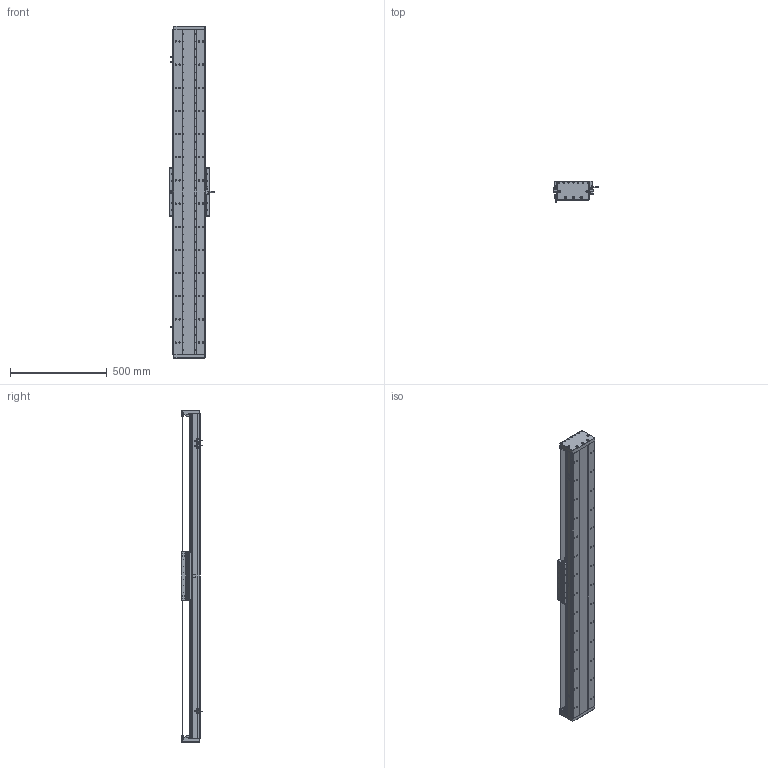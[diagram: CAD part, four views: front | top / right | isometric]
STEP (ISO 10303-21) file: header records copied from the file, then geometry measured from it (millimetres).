
FILE_DESCRIPTION (( 'STEP AP203' ), '1' );
FILE_NAME ('DA-C165-C3-T1380-C010-0.2 直线电机.STEP', '2023-06-13T08:45:45', ( '微软用户' ), ( '微软中国' ), 'SwSTEP 2.0', 'SolidWorks 2019', '' );
FILE_SCHEMA (( 'CONFIG_CONTROL_DESIGN' ));
Length unit declared in the file: millimetre
Products named in the file (18): 复件 XD-U-02L 磁栅尺^DA-C165-C3-T-C010-0.2-N 直线电机_T; 葩璃 CKM03-W075-C1C2-TP-3.0^DA-C165-C3-T-C010-0.2-N 眻盄萇儂; 复件 DA95-HXJ-00 缓冲橡胶^DA-C165-C3-T-C010-0.2-N 直线电机; 复件 六角薄螺母 M3^DA-C165-C3-T-C010-0.2-N 直线电机_GB_FASTENER_NUT_STNAB M3-C; 葩璃 PM-T45^DA-C165-C3-T-C010-0.2-N 眻盄萇儂; 复件 DA165-GD-DG-H-00 端盖^复件 CU165钢带组件_DA-C165-C3-T-C010-0.2-N 直线电机; 复件 CU165 底座^IU-CU165-L 底座导轨_L1680; 葩璃 CKM01-W075-TRL^DA-C165-C3-T-C010-0.2-N 眻盄萇儂; 复件 DA165-GD-1860-002-00 钢带盖板^复件 CU165钢带组件_DA-C165-C3-T-C010-0.2-N 直线电机; IU-CU165-L 菁釱絳寢; 复件 DA165-GYP-00 光电感应片^DA-C165-C3-T-C010-0.2-N 直线电机; 复件 DA165-GDYK-00 钢带压块^复件 CU165钢带组件_DA-C165-C3-T-C010-0.2-N 直线电机; 复件 DMA-010-0.2 读数头^DA-C165-C3-T-C010-0.2-N 直线电机; 珨极趙賑雄怢啣C3-wf; DA-C165-C3-T1380-C010-0.2 眻盄萇儂; 复件 CU165钢带组件^DA-C165-C3-T-C010-0.2-N 直线电机; 葩璃 DA95-GT-T-00^IU-CU165-L 菁釱絳寢_T; 复件 DA165-GDLK-00 钢带拉块^复件 CU165钢带组件_DA-C165-C3-T-C010-0.2-N 直线电机
Assembly tree (35 placements, depth 3):
  DA-C165-C3-T1380-C010-0.2 眻盄萇儂
    IU-CU165-L 菁釱絳寢
      复件 CU165 底座^IU-CU165-L 底座导轨_L1680
      葩璃 DA95-GT-T-00^IU-CU165-L 菁釱絳寢_T  x4
    复件 XD-U-02L 磁栅尺^DA-C165-C3-T-C010-0.2-N 直线电机_T
    葩璃 PM-T45^DA-C165-C3-T-C010-0.2-N 眻盄萇儂  x3
    葩璃 CKM01-W075-TRL^DA-C165-C3-T-C010-0.2-N 眻盄萇儂
    复件 CU165钢带组件^DA-C165-C3-T-C010-0.2-N 直线电机
      复件 DA165-GD-DG-H-00 端盖^复件 CU165钢带组件_DA-C165-C3-T-C010-0.2-N 直线电机  x2
      复件 DA165-GDYK-00 钢带压块^复件 CU165钢带组件_DA-C165-C3-T-C010-0.2-N 直线电机  x2
      复件 DA165-GD-1860-002-00 钢带盖板^复件 CU165钢带组件_DA-C165-C3-T-C010-0.2-N 直线电机
      复件 DA165-GDLK-00 钢带拉块^复件 CU165钢带组件_DA-C165-C3-T-C010-0.2-N 直线电机  x2
    复件 DA95-HXJ-00 缓冲橡胶^DA-C165-C3-T-C010-0.2-N 直线电机  x4
    复件 DA165-GYP-00 光电感应片^DA-C165-C3-T-C010-0.2-N 直线电机
    复件 DMA-010-0.2 读数头^DA-C165-C3-T-C010-0.2-N 直线电机
    葩璃 CKM03-W075-C1C2-TP-3.0^DA-C165-C3-T-C010-0.2-N 眻盄萇儂
    复件 六角薄螺母 M3^DA-C165-C3-T-C010-0.2-N 直线电机_GB_FASTENER_NUT_STNAB M3-C  x8
    珨极趙賑雄怢啣C3-wf
Bounding box: 233 x 111.45 x 1720 mm (x, y, z)
Volume: 10822258.5 mm3; surface area: 3089484.2 mm2
Topology: 72 solids, 122 shells, 3898 faces, 10727 edges, 6706 vertices
Faces by surface type: cylinder 2088, plane 1184, cone 576, torus 46, sphere 4
Entity records: 120213 total; most frequent: CARTESIAN_POINT 30279, DIRECTION 18435, ORIENTED_EDGE 18206, EDGE_CURVE 9103, AXIS2_PLACEMENT_3D 7044, VERTEX_POINT 5894, LINE 4347, VECTOR 4347
